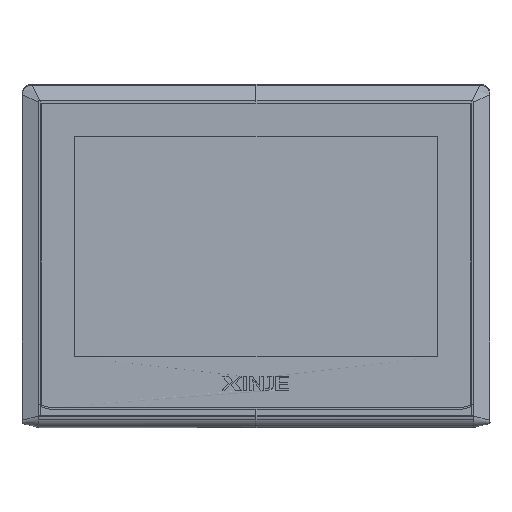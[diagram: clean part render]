
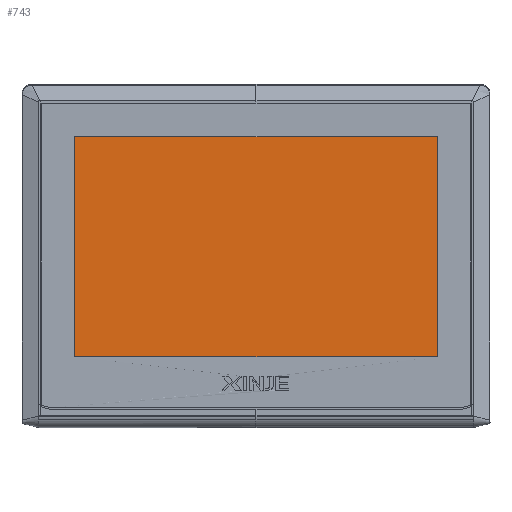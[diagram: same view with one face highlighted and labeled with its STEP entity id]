
A CAD part, front view. The second image highlights one B-rep face of the part: STEP entity #743.
In plain terms, the highlighted planar face has unit normal (0, -1, 0).
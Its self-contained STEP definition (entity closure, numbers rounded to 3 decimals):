
#743=ADVANCED_FACE('',(#1532),#13008,.T.);
#1532=FACE_OUTER_BOUND('',#2340,.T.);
#2340=EDGE_LOOP('',(#3966,#3967,#3968,#3969));
#3966=ORIENTED_EDGE('',*,*,#7588,.F.);
#3967=ORIENTED_EDGE('',*,*,#7563,.F.);
#3968=ORIENTED_EDGE('',*,*,#7583,.F.);
#3969=ORIENTED_EDGE('',*,*,#7586,.F.);
#7563=EDGE_CURVE('',#11576,#11573,#9750,.T.);
#7583=EDGE_CURVE('',#11594,#11576,#9770,.T.);
#7586=EDGE_CURVE('',#11596,#11594,#9773,.T.);
#7588=EDGE_CURVE('',#11573,#11596,#9775,.T.);
#9750=B_SPLINE_CURVE_WITH_KNOTS('',1,(#18602,#18603),.UNSPECIFIED.,.F.,
 .F.,(2,2),(0.,94.3),.UNSPECIFIED.);
#9770=B_SPLINE_CURVE_WITH_KNOTS('',1,(#18646,#18647),.UNSPECIFIED.,.F.,
 .F.,(2,2),(0.,155.3),.UNSPECIFIED.);
#9773=B_SPLINE_CURVE_WITH_KNOTS('',1,(#18652,#18653),.UNSPECIFIED.,.F.,
 .F.,(2,2),(0.,94.3),.UNSPECIFIED.);
#9775=B_SPLINE_CURVE_WITH_KNOTS('',1,(#18656,#18657),.UNSPECIFIED.,.F.,
 .F.,(2,2),(0.,155.3),.UNSPECIFIED.);
#11573=VERTEX_POINT('',#18377);
#11576=VERTEX_POINT('',#18380);
#11594=VERTEX_POINT('',#18398);
#11596=VERTEX_POINT('',#18400);
#13008=PLANE('',#13610);
#13610=AXIS2_PLACEMENT_3D('',#18339,#14196,$);
#14196=DIRECTION('',(0.,-1.,0.));
#18339=CARTESIAN_POINT('',(-90.879,-89.,138.78));
#18377=CARTESIAN_POINT('',(-74.149,-89.,128.15));
#18380=CARTESIAN_POINT('',(-74.149,-89.,33.85));
#18398=CARTESIAN_POINT('',(81.151,-89.,33.85));
#18400=CARTESIAN_POINT('',(81.151,-89.,128.15));
#18602=CARTESIAN_POINT('',(-74.149,-89.,33.85));
#18603=CARTESIAN_POINT('',(-74.149,-89.,128.15));
#18646=CARTESIAN_POINT('',(81.151,-89.,33.85));
#18647=CARTESIAN_POINT('',(-74.149,-89.,33.85));
#18652=CARTESIAN_POINT('',(81.151,-89.,128.15));
#18653=CARTESIAN_POINT('',(81.151,-89.,33.85));
#18656=CARTESIAN_POINT('',(-74.149,-89.,128.15));
#18657=CARTESIAN_POINT('',(81.151,-89.,128.15));
